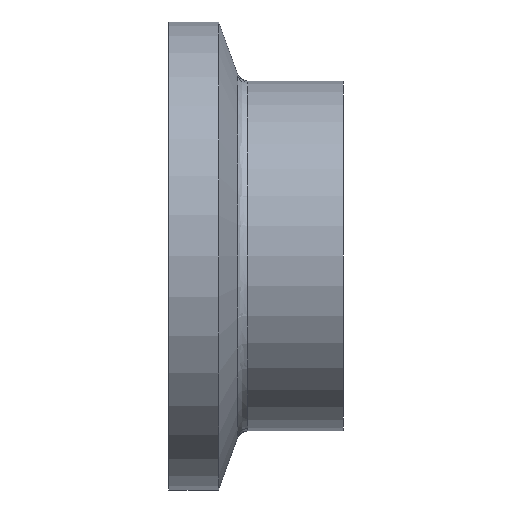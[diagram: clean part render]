
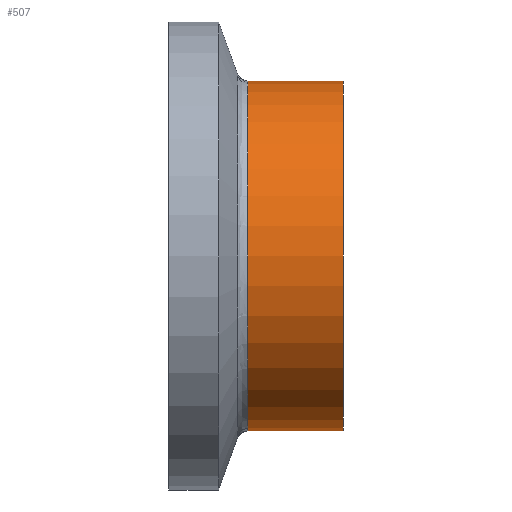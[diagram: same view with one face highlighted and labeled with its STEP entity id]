
A CAD part, front view. The second image highlights one B-rep face of the part: STEP entity #507.
In plain terms, the highlighted cylindrical face has radius 12.7 mm (diameter 25.4 mm), a partial arc.
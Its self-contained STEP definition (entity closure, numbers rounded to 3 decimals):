
#3 = CIRCLE ( 'NONE', #669, 12.7 ) ;
#52 = CIRCLE ( 'NONE', #395, 12.7 ) ;
#64 = CARTESIAN_POINT ( 'NONE',  ( 12.7, 0., 12.7 ) ) ;
#115 = ORIENTED_EDGE ( 'NONE', *, *, #179, .T. ) ;
#129 = VERTEX_POINT ( 'NONE', #355 ) ;
#146 = VERTEX_POINT ( 'NONE', #212 ) ;
#153 = LINE ( 'NONE', #427, #622 ) ;
#155 = VERTEX_POINT ( 'NONE', #64 ) ;
#179 = EDGE_CURVE ( 'NONE', #129, #155, #3, .T. ) ;
#206 = DIRECTION ( 'NONE',  ( -1., 0., 0. ) ) ;
#212 = CARTESIAN_POINT ( 'NONE',  ( 5.751, 0., 12.7 ) ) ;
#254 = LINE ( 'NONE', #340, #553 ) ;
#264 = VERTEX_POINT ( 'NONE', #734 ) ;
#272 = DIRECTION ( 'NONE',  ( 0., 0., 1. ) ) ;
#280 = DIRECTION ( 'NONE',  ( 1., 0., 0. ) ) ;
#290 = DIRECTION ( 'NONE',  ( -1., 0., 0. ) ) ;
#305 = DIRECTION ( 'NONE',  ( 0., 0., 1. ) ) ;
#312 = CARTESIAN_POINT ( 'NONE',  ( 12.7, 0., 0. ) ) ;
#340 = CARTESIAN_POINT ( 'NONE',  ( -9.765, 0., 12.7 ) ) ;
#343 = EDGE_CURVE ( 'NONE', #146, #264, #52, .T. ) ;
#345 = EDGE_CURVE ( 'NONE', #129, #264, #153, .T. ) ;
#355 = CARTESIAN_POINT ( 'NONE',  ( 12.7, 0., -12.7 ) ) ;
#365 = EDGE_LOOP ( 'NONE', ( #460, #115, #402, #711 ) ) ;
#387 = CARTESIAN_POINT ( 'NONE',  ( -9.765, 0., 0. ) ) ;
#395 = AXIS2_PLACEMENT_3D ( 'NONE', #561, #280, #272 ) ;
#402 = ORIENTED_EDGE ( 'NONE', *, *, #495, .T. ) ;
#403 = DIRECTION ( 'NONE',  ( -1., 0., 0. ) ) ;
#427 = CARTESIAN_POINT ( 'NONE',  ( -9.765, 0., -12.7 ) ) ;
#460 = ORIENTED_EDGE ( 'NONE', *, *, #345, .F. ) ;
#492 = DIRECTION ( 'NONE',  ( -1., 0., 0. ) ) ;
#495 = EDGE_CURVE ( 'NONE', #155, #146, #254, .T. ) ;
#507 = ADVANCED_FACE ( 'NONE', ( #726 ), #668, .T. ) ;
#553 = VECTOR ( 'NONE', #492, 1000. ) ;
#561 = CARTESIAN_POINT ( 'NONE',  ( 5.751, 0., 0. ) ) ;
#564 = AXIS2_PLACEMENT_3D ( 'NONE', #387, #290, #305 ) ;
#622 = VECTOR ( 'NONE', #403, 1000. ) ;
#623 = DIRECTION ( 'NONE',  ( 0., 0., 1. ) ) ;
#668 = CYLINDRICAL_SURFACE ( 'NONE', #564, 12.7 ) ;
#669 = AXIS2_PLACEMENT_3D ( 'NONE', #312, #206, #623 ) ;
#711 = ORIENTED_EDGE ( 'NONE', *, *, #343, .T. ) ;
#726 = FACE_OUTER_BOUND ( 'NONE', #365, .T. ) ;
#734 = CARTESIAN_POINT ( 'NONE',  ( 5.751, 0., -12.7 ) ) ;
